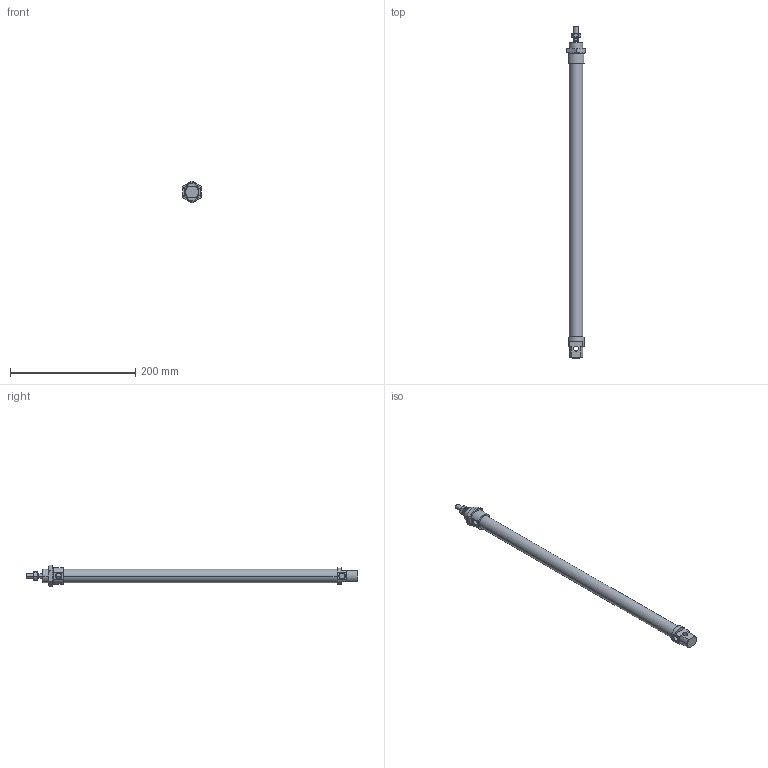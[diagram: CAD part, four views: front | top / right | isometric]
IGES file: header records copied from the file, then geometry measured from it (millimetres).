
Global section: file name: No Iges File Name specified; native system: Autodesk Inventor 2010; preprocessor: AutoDesk Inventor Iges Exporter R2010; author: rivolro1; date: 20090604.093324; units: millimetre
Bounding box: 30 x 530 x 34.64 mm (x, y, z)
Volume: 185552.5 mm3; surface area: 61278.3 mm2
Topology: 4 solids, 4 shells, 110 faces, 249 edges, 152 vertices
Faces by surface type: plane 41, cone 28, bspline 21, cylinder 14, revolution 6
